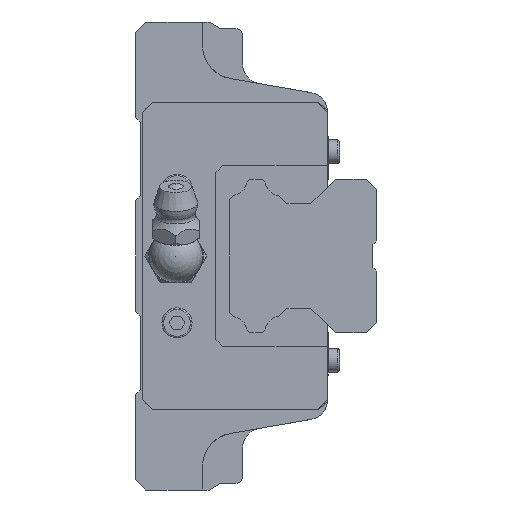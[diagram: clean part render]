
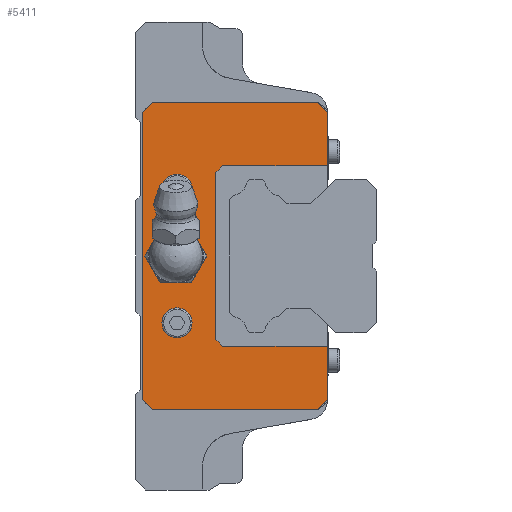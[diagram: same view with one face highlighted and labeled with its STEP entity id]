
A CAD part, left-side view. The second image highlights one B-rep face of the part: STEP entity #5411.
In plain terms, the highlighted planar face has unit normal (-1, 0, 0).
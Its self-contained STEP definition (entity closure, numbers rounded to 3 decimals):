
#257=CIRCLE('',#5883,3.);
#258=CIRCLE('',#5884,2.25);
#259=CIRCLE('',#5885,2.25);
#405=LINE('',#7919,#957);
#416=LINE('',#7943,#968);
#449=LINE('',#8011,#1001);
#466=LINE('',#8046,#1018);
#502=LINE('',#8117,#1054);
#530=LINE('',#8177,#1082);
#540=LINE('',#8198,#1092);
#721=LINE('',#8775,#1273);
#723=LINE('',#8778,#1275);
#730=LINE('',#8805,#1282);
#731=LINE('',#8808,#1283);
#732=LINE('',#8809,#1284);
#733=LINE('',#8811,#1285);
#734=LINE('',#8813,#1286);
#957=VECTOR('',#6395,1000.);
#968=VECTOR('',#6414,1000.);
#1001=VECTOR('',#6463,1000.);
#1018=VECTOR('',#6484,1000.);
#1054=VECTOR('',#6544,1000.);
#1082=VECTOR('',#6584,1000.);
#1092=VECTOR('',#6596,1000.);
#1273=VECTOR('',#7061,1000.);
#1275=VECTOR('',#7065,1000.);
#1282=VECTOR('',#7092,1000.);
#1283=VECTOR('',#7093,1000.);
#1284=VECTOR('',#7094,1000.);
#1285=VECTOR('',#7095,1000.);
#1286=VECTOR('',#7096,1000.);
#2400=ORIENTED_EDGE('',*,*,#3495,.T.);
#2401=ORIENTED_EDGE('',*,*,#3496,.F.);
#2402=ORIENTED_EDGE('',*,*,#3497,.F.);
#2403=ORIENTED_EDGE('',*,*,#3498,.T.);
#2404=ORIENTED_EDGE('',*,*,#3499,.T.);
#2405=ORIENTED_EDGE('',*,*,#3216,.F.);
#2406=ORIENTED_EDGE('',*,*,#3483,.T.);
#2407=ORIENTED_EDGE('',*,*,#3097,.F.);
#2408=ORIENTED_EDGE('',*,*,#3085,.F.);
#2409=ORIENTED_EDGE('',*,*,#3186,.F.);
#2410=ORIENTED_EDGE('',*,*,#3131,.F.);
#2411=ORIENTED_EDGE('',*,*,#3148,.F.);
#2412=ORIENTED_EDGE('',*,*,#3485,.T.);
#2413=ORIENTED_EDGE('',*,*,#3226,.F.);
#2414=ORIENTED_EDGE('',*,*,#3500,.T.);
#2415=ORIENTED_EDGE('',*,*,#3501,.T.);
#2416=ORIENTED_EDGE('',*,*,#3502,.T.);
#3085=EDGE_CURVE('',#3803,#3804,#405,.T.);
#3097=EDGE_CURVE('',#3804,#3813,#416,.T.);
#3131=EDGE_CURVE('',#3839,#3840,#449,.T.);
#3148=EDGE_CURVE('',#3855,#3839,#466,.T.);
#3186=EDGE_CURVE('',#3840,#3803,#502,.T.);
#3216=EDGE_CURVE('',#3904,#3905,#530,.T.);
#3226=EDGE_CURVE('',#3914,#3915,#540,.T.);
#3483=EDGE_CURVE('',#3904,#3813,#721,.T.);
#3485=EDGE_CURVE('',#3855,#3915,#723,.T.);
#3495=EDGE_CURVE('',#4100,#4100,#257,.T.);
#3496=EDGE_CURVE('',#4101,#4101,#258,.F.);
#3497=EDGE_CURVE('',#4102,#4102,#259,.F.);
#3498=EDGE_CURVE('',#4103,#4104,#730,.T.);
#3499=EDGE_CURVE('',#4104,#3905,#731,.T.);
#3500=EDGE_CURVE('',#3914,#4105,#732,.T.);
#3501=EDGE_CURVE('',#4105,#4106,#733,.T.);
#3502=EDGE_CURVE('',#4106,#4103,#734,.T.);
#3803=VERTEX_POINT('',#7918);
#3804=VERTEX_POINT('',#7920);
#3813=VERTEX_POINT('',#7944);
#3839=VERTEX_POINT('',#8010);
#3840=VERTEX_POINT('',#8012);
#3855=VERTEX_POINT('',#8045);
#3904=VERTEX_POINT('',#8176);
#3905=VERTEX_POINT('',#8178);
#3914=VERTEX_POINT('',#8197);
#3915=VERTEX_POINT('',#8199);
#4100=VERTEX_POINT('',#8800);
#4101=VERTEX_POINT('',#8802);
#4102=VERTEX_POINT('',#8804);
#4103=VERTEX_POINT('',#8806);
#4104=VERTEX_POINT('',#8807);
#4105=VERTEX_POINT('',#8810);
#4106=VERTEX_POINT('',#8812);
#4448=EDGE_LOOP('',(#2400));
#4449=EDGE_LOOP('',(#2401));
#4450=EDGE_LOOP('',(#2402));
#4451=EDGE_LOOP('',(#2403,#2404,#2405,#2406,#2407,#2408,#2409,#2410,#2411,
#2412,#2413,#2414,#2415,#2416));
#4835=FACE_BOUND('',#4448,.T.);
#4836=FACE_BOUND('',#4449,.T.);
#4837=FACE_BOUND('',#4450,.T.);
#4838=FACE_BOUND('',#4451,.T.);
#5149=PLANE('',#5882);
#5411=ADVANCED_FACE('',(#4835,#4836,#4837,#4838),#5149,.F.);
#5882=AXIS2_PLACEMENT_3D('',#8798,#7084,#7085);
#5883=AXIS2_PLACEMENT_3D('',#8799,#7086,#7087);
#5884=AXIS2_PLACEMENT_3D('',#8801,#7088,#7089);
#5885=AXIS2_PLACEMENT_3D('',#8803,#7090,#7091);
#6395=DIRECTION('',(0.,-0.707,0.707));
#6414=DIRECTION('',(0.,-1.,0.));
#6463=DIRECTION('',(0.,0.707,0.707));
#6484=DIRECTION('',(0.,1.,0.));
#6544=DIRECTION('',(0.,0.,1.));
#6584=DIRECTION('',(0.,0.,-1.));
#6596=DIRECTION('',(0.,0.,-1.));
#7061=DIRECTION('',(0.,0.707,0.707));
#7065=DIRECTION('',(0.,-0.707,0.707));
#7084=DIRECTION('',(1.,0.,0.));
#7085=DIRECTION('',(0.,0.,-1.));
#7086=DIRECTION('',(1.,0.,0.));
#7087=DIRECTION('',(0.,0.,-1.));
#7088=DIRECTION('',(1.,0.,0.));
#7089=DIRECTION('',(0.,0.,-1.));
#7090=DIRECTION('',(1.,0.,0.));
#7091=DIRECTION('',(0.,0.,-1.));
#7092=DIRECTION('',(0.,-0.707,0.707));
#7093=DIRECTION('',(0.,-1.,0.));
#7094=DIRECTION('',(0.,1.,0.));
#7095=DIRECTION('',(0.,0.707,0.707));
#7096=DIRECTION('',(0.,0.,1.));
#7918=CARTESIAN_POINT('',(-39.95,29.5,21.5));
#7919=CARTESIAN_POINT('',(-39.95,29.5,21.5));
#7920=CARTESIAN_POINT('',(-39.95,28.,23.));
#7943=CARTESIAN_POINT('',(-39.95,30.5,23.));
#7944=CARTESIAN_POINT('',(-39.95,3.317,23.));
#8010=CARTESIAN_POINT('',(-39.95,28.,-23.));
#8011=CARTESIAN_POINT('',(-39.95,28.,-23.));
#8012=CARTESIAN_POINT('',(-39.95,29.5,-21.5));
#8045=CARTESIAN_POINT('',(-39.95,3.317,-23.));
#8046=CARTESIAN_POINT('',(-39.95,0.,-23.));
#8117=CARTESIAN_POINT('',(-39.95,29.5,-21.5));
#8176=CARTESIAN_POINT('',(-39.95,1.817,21.5));
#8177=CARTESIAN_POINT('',(-39.95,1.817,-17.8));
#8178=CARTESIAN_POINT('',(-39.95,1.817,13.5));
#8197=CARTESIAN_POINT('',(-39.95,1.817,-13.5));
#8198=CARTESIAN_POINT('',(-39.95,1.817,-17.8));
#8199=CARTESIAN_POINT('',(-39.95,1.817,-21.5));
#8775=CARTESIAN_POINT('',(-39.95,3.317,23.));
#8778=CARTESIAN_POINT('',(-39.95,1.817,-21.5));
#8798=CARTESIAN_POINT('',(-39.95,0.,0.));
#8799=CARTESIAN_POINT('',(-39.95,24.5,0.));
#8800=CARTESIAN_POINT('',(-39.95,24.5,-3.));
#8801=CARTESIAN_POINT('',(-39.95,24.317,10.));
#8802=CARTESIAN_POINT('',(-39.95,24.317,7.75));
#8803=CARTESIAN_POINT('',(-39.95,24.317,-10.));
#8804=CARTESIAN_POINT('',(-39.95,24.317,-12.25));
#8805=CARTESIAN_POINT('',(-39.95,18.5,12.5));
#8806=CARTESIAN_POINT('',(-39.95,18.5,12.5));
#8807=CARTESIAN_POINT('',(-39.95,17.5,13.5));
#8808=CARTESIAN_POINT('',(-39.95,17.5,13.5));
#8809=CARTESIAN_POINT('',(-39.95,1.817,-13.5));
#8810=CARTESIAN_POINT('',(-39.95,17.5,-13.5));
#8811=CARTESIAN_POINT('',(-39.95,17.5,-13.5));
#8812=CARTESIAN_POINT('',(-39.95,18.5,-12.5));
#8813=CARTESIAN_POINT('',(-39.95,18.5,-12.5));
